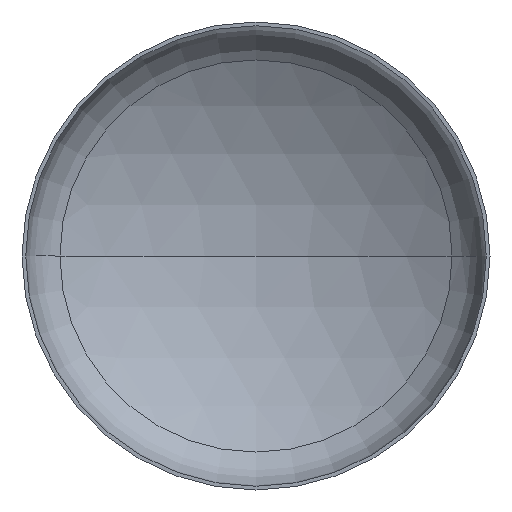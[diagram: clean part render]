
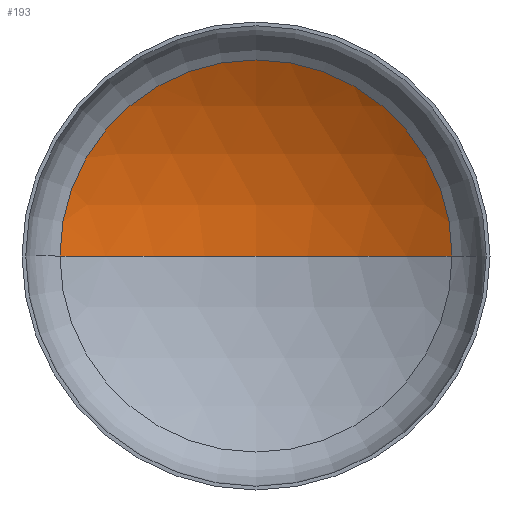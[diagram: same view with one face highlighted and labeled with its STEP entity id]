
A CAD part, front view. The second image highlights one B-rep face of the part: STEP entity #193.
In plain terms, the highlighted spherical face has radius 2400 mm.
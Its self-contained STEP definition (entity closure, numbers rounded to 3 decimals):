
#1 = VERTEX_POINT ( 'NONE', #255 ) ;
#8 = AXIS2_PLACEMENT_3D ( 'NONE', #139, #316, #176 ) ;
#12 = AXIS2_PLACEMENT_3D ( 'NONE', #249, #400, #277 ) ;
#22 = CARTESIAN_POINT ( 'NONE',  ( 0., -1577.678, 0. ) ) ;
#52 = VERTEX_POINT ( 'NONE', #91 ) ;
#60 = AXIS2_PLACEMENT_3D ( 'NONE', #22, #114, #376 ) ;
#70 = AXIS2_PLACEMENT_3D ( 'NONE', #201, #353, #226 ) ;
#91 = CARTESIAN_POINT ( 'NONE',  ( 1256.907, 466.872, 0. ) ) ;
#94 = ORIENTED_EDGE ( 'NONE', *, *, #163, .T. ) ;
#114 = DIRECTION ( 'NONE',  ( 0., 0., -1. ) ) ;
#138 = EDGE_LOOP ( 'NONE', ( #315, #148, #94 ) ) ;
#139 = CARTESIAN_POINT ( 'NONE',  ( 0., -1577.678, 0. ) ) ;
#148 = ORIENTED_EDGE ( 'NONE', *, *, #348, .T. ) ;
#161 = CIRCLE ( 'NONE', #70, 1256.907 ) ;
#163 = EDGE_CURVE ( 'NONE', #52, #1, #161, .T. ) ;
#176 = DIRECTION ( 'NONE',  ( 1., 0., 0. ) ) ;
#193 = ADVANCED_FACE ( 'NONE', ( #232 ), #289, .F. ) ;
#201 = CARTESIAN_POINT ( 'NONE',  ( 0., 466.872, 0. ) ) ;
#226 = DIRECTION ( 'NONE',  ( 1., 0., 0. ) ) ;
#232 = FACE_OUTER_BOUND ( 'NONE', #138, .T. ) ;
#249 = CARTESIAN_POINT ( 'NONE',  ( 0., -1577.678, 0. ) ) ;
#255 = CARTESIAN_POINT ( 'NONE',  ( -1256.907, 466.872, 0. ) ) ;
#257 = CIRCLE ( 'NONE', #8, 2400. ) ;
#277 = DIRECTION ( 'NONE',  ( -1., 0., 0. ) ) ;
#289 = SPHERICAL_SURFACE ( 'NONE', #60, 2400. ) ;
#309 = CIRCLE ( 'NONE', #12, 2400. ) ;
#315 = ORIENTED_EDGE ( 'NONE', *, *, #349, .F. ) ;
#316 = DIRECTION ( 'NONE',  ( 0., 0., 1. ) ) ;
#334 = CARTESIAN_POINT ( 'NONE',  ( 0., 822.322, 0. ) ) ;
#348 = EDGE_CURVE ( 'NONE', #369, #52, #309, .T. ) ;
#349 = EDGE_CURVE ( 'NONE', #369, #1, #257, .T. ) ;
#353 = DIRECTION ( 'NONE',  ( 0., -1., 0. ) ) ;
#369 = VERTEX_POINT ( 'NONE', #334 ) ;
#376 = DIRECTION ( 'NONE',  ( -1., 0., 0. ) ) ;
#400 = DIRECTION ( 'NONE',  ( 0., 0., -1. ) ) ;
